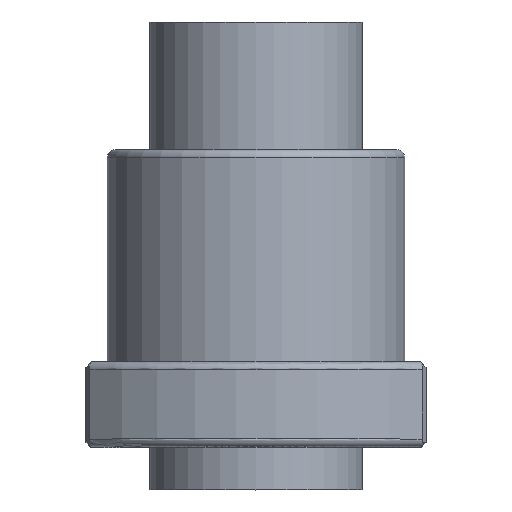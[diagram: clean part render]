
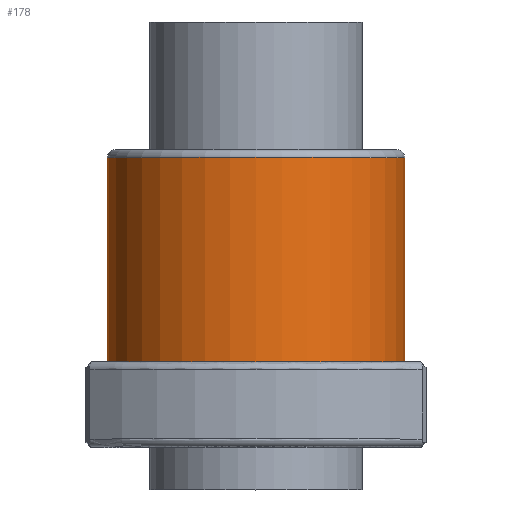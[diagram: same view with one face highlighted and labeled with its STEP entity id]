
A CAD part, top view. The second image highlights one B-rep face of the part: STEP entity #178.
In plain terms, the highlighted cylindrical face has radius 28 mm (diameter 56 mm), a full revolution.
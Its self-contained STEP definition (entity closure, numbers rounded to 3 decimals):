
#178=ADVANCED_FACE('',(#248,#249),#223,.T.);
#223=CYLINDRICAL_SURFACE('',#839,28.);
#248=FACE_BOUND('',#330,.T.);
#249=FACE_BOUND('',#331,.T.);
#330=EDGE_LOOP('',(#466));
#331=EDGE_LOOP('',(#467));
#466=ORIENTED_EDGE('',*,*,#705,.T.);
#467=ORIENTED_EDGE('',*,*,#689,.F.);
#613=VERTEX_POINT('',#1322);
#622=VERTEX_POINT('',#1460);
#689=EDGE_CURVE('',#613,#613,#768,.T.);
#705=EDGE_CURVE('',#622,#622,#772,.T.);
#768=CIRCLE('',#829,28.);
#772=CIRCLE('',#838,28.);
#829=AXIS2_PLACEMENT_3D('',#1321,#974,#975);
#838=AXIS2_PLACEMENT_3D('',#1459,#996,#997);
#839=AXIS2_PLACEMENT_3D('',#1461,#998,#999);
#974=DIRECTION('',(0.,-1.,0.));
#975=DIRECTION('',(0.,0.,-1.));
#996=DIRECTION('',(0.,-1.,0.));
#997=DIRECTION('',(0.,0.,-1.));
#998=DIRECTION('',(0.,-1.,0.));
#999=DIRECTION('',(0.,0.,-1.));
#1321=CARTESIAN_POINT('',(0.,16.,0.));
#1322=CARTESIAN_POINT('',(0.,16.,-28.));
#1459=CARTESIAN_POINT('',(0.,54.5,0.));
#1460=CARTESIAN_POINT('',(0.,54.5,-28.));
#1461=CARTESIAN_POINT('',(0.,56.,0.));
